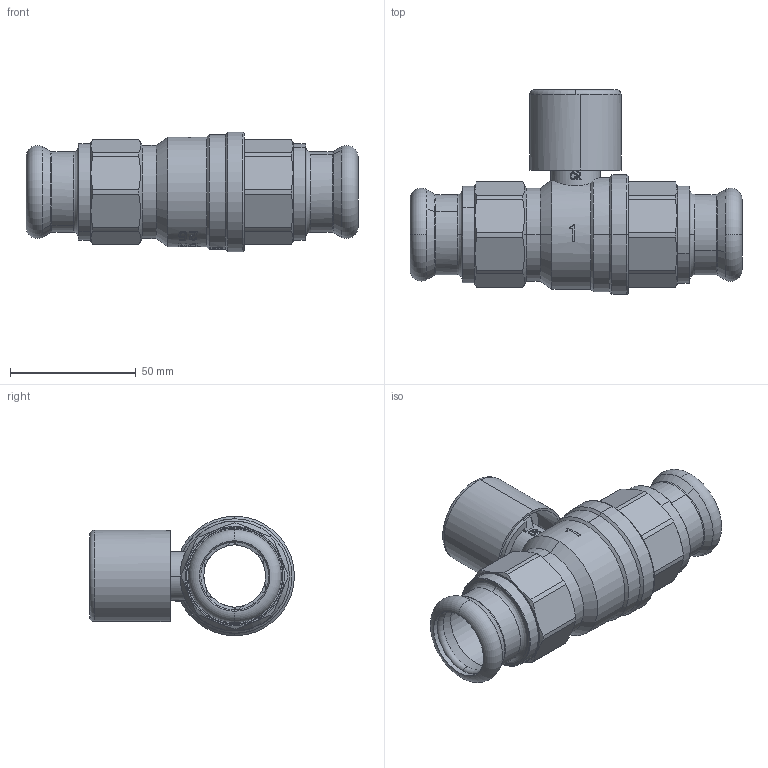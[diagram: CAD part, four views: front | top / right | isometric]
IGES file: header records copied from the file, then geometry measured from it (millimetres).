
Global section: file name: No Iges File Name specified; native system: AutoDesk Inventor R12.0; preprocessor: AutoDesk Inventor Iges Exporter R12.0; date: 20111118.144704; units: millimetre
Bounding box: 132 x 81.45 x 47.5 mm (x, y, z)
Volume: 102558 mm3; surface area: 50504.3 mm2
Topology: 1 solids, 1 shells, 620 faces, 1901 edges, 1338 vertices
Faces by surface type: plane 240, bspline 115, revolution 88, cone 79, cylinder 78, torus 20
